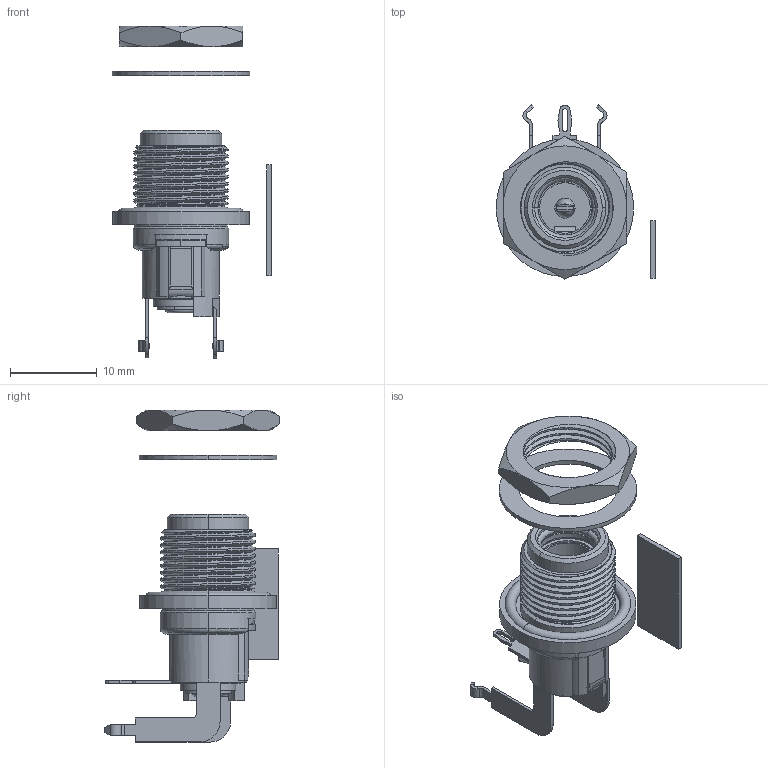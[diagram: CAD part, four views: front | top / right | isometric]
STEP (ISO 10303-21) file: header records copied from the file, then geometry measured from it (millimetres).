
FILE_DESCRIPTION (( 'STEP AP214' ), '1' );
FILE_NAME ('L722RAS.STEP', '2010-09-28T14:28:23', ( ' ' ), ( ' ' ), 'SwSTEP 2.0', 'SolidWorks 2008', '' );
FILE_SCHEMA (( 'AUTOMOTIVE_DESIGN' ));
Length unit declared in the file: inch
Products named in the file (1): L722RAS
Bounding box: 18.43 x 20.18 x 38.31 mm (x, y, z)
Volume: 1654.9 mm3; surface area: 3045.2 mm2
Topology: 6 solids, 6 shells, 1405 faces, 3729 edges, 2461 vertices
Faces by surface type: plane 865, bspline 333, cylinder 144, cone 42, torus 21
Entity records: 63969 total; most frequent: CARTESIAN_POINT 31363, ORIENTED_EDGE 7458, DIRECTION 5353, EDGE_CURVE 3729, LINE 2597, VECTOR 2597, VERTEX_POINT 2461, EDGE_LOOP 1544
